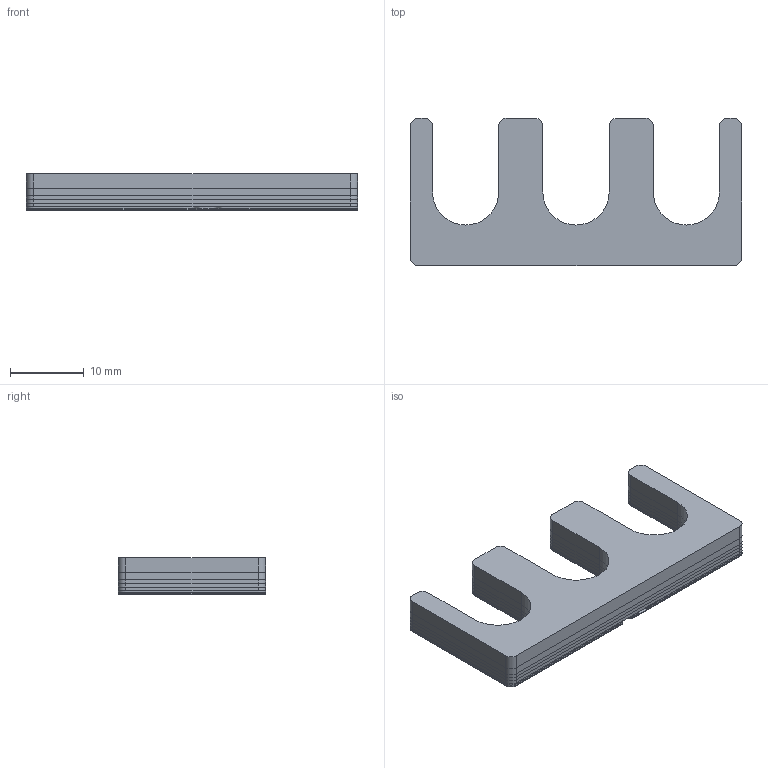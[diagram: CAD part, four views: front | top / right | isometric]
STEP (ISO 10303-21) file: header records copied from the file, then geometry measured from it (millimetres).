
FILE_DESCRIPTION (( 'STEP AP214' ), '1' );
FILE_NAME ('SP-45x20-08-03-50-VA-00-00__Notum.STEP', '2018-03-29T11:20:17', ( '' ), ( '' ), 'SwSTEP 2.0', 'SolidWorks 2015', '' );
FILE_SCHEMA (( 'AUTOMOTIVE_DESIGN' ));
Length unit declared in the file: millimetre
Products named in the file (6): S-45x20-08-03-05-VA-00-00__Notum; S-45x20-08-03-10-VA-00-00__Notum; S-45x20-08-03-20-VA-00-00__Notum; SP-45x20-08-03-50-VA-00-00__Notum; S-45x20-08-03-01-VA-00-00__Notum; S-45x20-08-03-02-VA-00-00__Notum
Assembly tree (8 placements, depth 2):
  SP-45x20-08-03-50-VA-00-00__Notum
    S-45x20-08-03-20-VA-00-00__Notum
    S-45x20-08-03-10-VA-00-00__Notum
    S-45x20-08-03-05-VA-00-00__Notum  x3
    S-45x20-08-03-02-VA-00-00__Notum  x2
    S-45x20-08-03-01-VA-00-00__Notum
Bounding box: 45 x 20 x 5 mm (x, y, z)
Volume: 2661.3 mm3; surface area: 9515.4 mm2
Topology: 8 solids, 8 shells, 254 faces, 714 edges, 476 vertices
Faces by surface type: plane 135, cylinder 119
Entity records: 5402 total; most frequent: DIRECTION 930, CARTESIAN_POINT 909, ORIENTED_EDGE 888, EDGE_CURVE 444, AXIS2_PLACEMENT_3D 317, VECTOR 296, LINE 296, VERTEX_POINT 296
